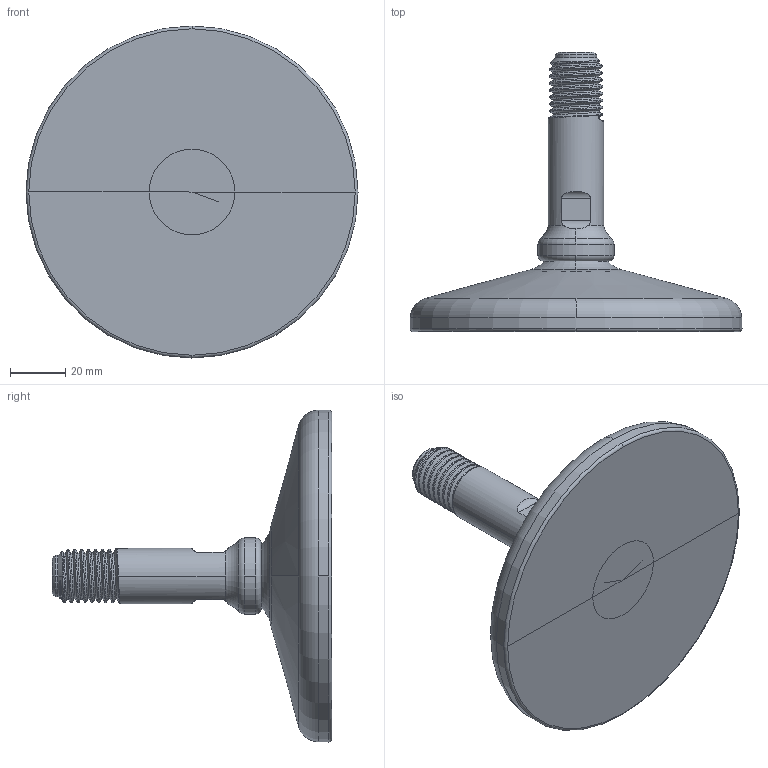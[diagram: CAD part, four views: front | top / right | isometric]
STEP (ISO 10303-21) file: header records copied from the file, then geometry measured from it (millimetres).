
FILE_DESCRIPTION((''),'1');
FILE_NAME('LALAM_M20.step','2024-03-04T09:05:52',(''),(''),'','','');
FILE_SCHEMA(('AUTOMOTIVE_DESIGN { 1 0 10303 214 1 1 1 1 }'));
Length unit declared in the file: metre
Products named in the file (6): LALAM part 01; LALAM part 03; LALAM seal 01; LALAM part 05; LALAM part 06
Assembly tree (5 placements, depth 3):
  LALAM part 01
    LALAM part 01
      LALAM part 03
      LALAM seal 01
      LALAM part 05
      LALAM part 06
Bounding box: 120 x 101 x 120 mm (x, y, z)
Volume: 201809.3 mm3; surface area: 40854.5 mm2
Topology: 4 solids, 4 shells, 114 faces, 261 edges, 162 vertices
Faces by surface type: cylinder 39, torus 22, plane 20, cone 18, bspline 12, sphere 3
Entity records: 6823 total; most frequent: CARTESIAN_POINT 4032, DIRECTION 612, ORIENTED_EDGE 518, AXIS2_PLACEMENT_3D 274, EDGE_CURVE 259, VERTEX_POINT 162, CIRCLE 160, EDGE_LOOP 127
